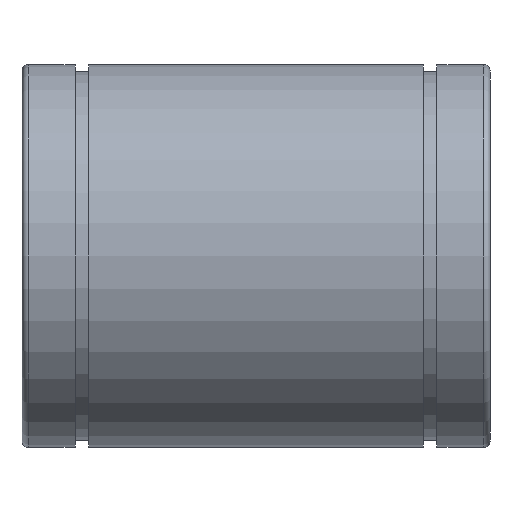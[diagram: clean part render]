
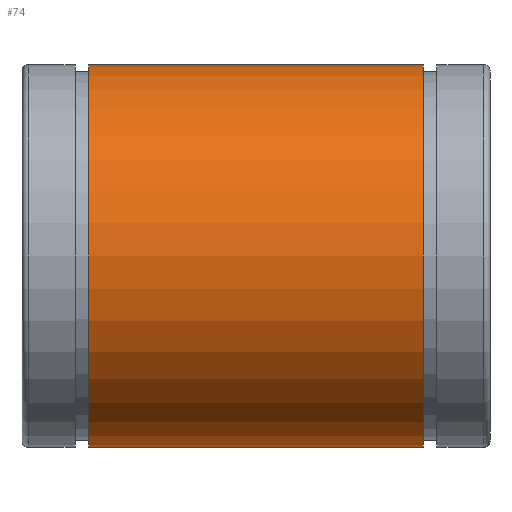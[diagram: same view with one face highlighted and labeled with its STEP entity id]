
A CAD part, front view. The second image highlights one B-rep face of the part: STEP entity #74.
In plain terms, the highlighted cylindrical face has radius 45 mm (diameter 90 mm), a full revolution.
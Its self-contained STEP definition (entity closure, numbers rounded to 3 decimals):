
#74 = ADVANCED_FACE( '', ( #159, #160 ), #161, .T. );
#159 = FACE_OUTER_BOUND( '', #238, .T. );
#160 = FACE_OUTER_BOUND( '', #239, .T. );
#161 = CYLINDRICAL_SURFACE( '', #240, 45. );
#238 = EDGE_LOOP( '', ( #343 ) );
#239 = EDGE_LOOP( '', ( #344 ) );
#240 = AXIS2_PLACEMENT_3D( '', #345, #346, #347 );
#343 = ORIENTED_EDGE( '', *, *, #372, .F. );
#344 = ORIENTED_EDGE( '', *, *, #376, .T. );
#345 = CARTESIAN_POINT( '', ( 55., 0., 0. ) );
#346 = DIRECTION( '', ( -1., 0., 0. ) );
#347 = DIRECTION( '', ( 0., 1., 0. ) );
#372 = EDGE_CURVE( '', #419, #419, #420, .T. );
#376 = EDGE_CURVE( '', #425, #425, #426, .T. );
#419 = VERTEX_POINT( '', #473 );
#420 = CIRCLE( '', #474, 45. );
#425 = VERTEX_POINT( '', #479 );
#426 = CIRCLE( '', #480, 45. );
#473 = CARTESIAN_POINT( '', ( 15.65, 45., 0. ) );
#474 = AXIS2_PLACEMENT_3D( '', #531, #532, #533 );
#479 = CARTESIAN_POINT( '', ( 94.35, 45., 0. ) );
#480 = AXIS2_PLACEMENT_3D( '', #537, #538, #539 );
#531 = CARTESIAN_POINT( '', ( 15.65, 0., 0. ) );
#532 = DIRECTION( '', ( -1., 0., 0. ) );
#533 = DIRECTION( '', ( 0., 1., 0. ) );
#537 = CARTESIAN_POINT( '', ( 94.35, 0., 0. ) );
#538 = DIRECTION( '', ( -1., 0., 0. ) );
#539 = DIRECTION( '', ( 0., 1., 0. ) );
